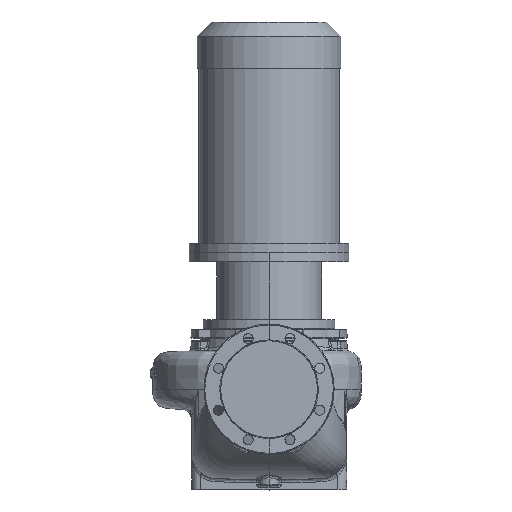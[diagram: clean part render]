
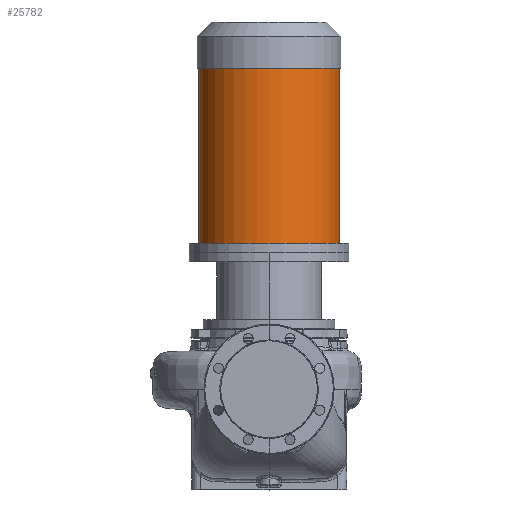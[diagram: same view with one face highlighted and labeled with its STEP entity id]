
A CAD part, top view. The second image highlights one B-rep face of the part: STEP entity #25782.
In plain terms, the highlighted cylindrical face has radius 154.5 mm (diameter 309 mm), a partial arc.
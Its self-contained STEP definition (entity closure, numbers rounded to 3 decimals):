
#1115 = EDGE_CURVE ( 'NONE', #68408, #66489, #30887, .T. ) ;
#2016 = CYLINDRICAL_SURFACE ( 'NONE', #28348, 154.5 ) ;
#3045 = CARTESIAN_POINT ( 'NONE',  ( 154.5, 299.8, 0. ) ) ;
#5681 = AXIS2_PLACEMENT_3D ( 'NONE', #25032, #57439, #12064 ) ;
#7532 = AXIS2_PLACEMENT_3D ( 'NONE', #39802, #64996, #27219 ) ;
#8286 = EDGE_CURVE ( 'NONE', #34252, #22077, #52697, .T. ) ;
#9692 = CARTESIAN_POINT ( 'NONE',  ( -154.5, 299.8, 0. ) ) ;
#12064 = DIRECTION ( 'NONE',  ( -1., 0., 0. ) ) ;
#12207 = LINE ( 'NONE', #9692, #82807 ) ;
#14001 = CARTESIAN_POINT ( 'NONE',  ( 0., 299.8, 0. ) ) ;
#20476 = DIRECTION ( 'NONE',  ( 0., -1., 0. ) ) ;
#20612 = ORIENTED_EDGE ( 'NONE', *, *, #1115, .T. ) ;
#21332 = EDGE_CURVE ( 'NONE', #68408, #34252, #78219, .T. ) ;
#22077 = VERTEX_POINT ( 'NONE', #51963 ) ;
#24074 = DIRECTION ( 'NONE',  ( 0., -1., 0. ) ) ;
#25032 = CARTESIAN_POINT ( 'NONE',  ( 0., 319.8, 0. ) ) ;
#25480 = ORIENTED_EDGE ( 'NONE', *, *, #8286, .F. ) ;
#25782 = ADVANCED_FACE ( 'NONE', ( #37280 ), #2016, .T. ) ;
#27219 = DIRECTION ( 'NONE',  ( -1., 0., 0. ) ) ;
#28348 = AXIS2_PLACEMENT_3D ( 'NONE', #14001, #20476, #78583 ) ;
#30887 = CIRCLE ( 'NONE', #7532, 154.5 ) ;
#34252 = VERTEX_POINT ( 'NONE', #80825 ) ;
#37280 = FACE_OUTER_BOUND ( 'NONE', #41258, .T. ) ;
#39802 = CARTESIAN_POINT ( 'NONE',  ( 0., 703.8, 0. ) ) ;
#41258 = EDGE_LOOP ( 'NONE', ( #69270, #20612, #54531, #25480 ) ) ;
#49478 = CARTESIAN_POINT ( 'NONE',  ( 154.5, 703.8, 0. ) ) ;
#51963 = CARTESIAN_POINT ( 'NONE',  ( -154.5, 319.8, 0. ) ) ;
#52697 = CIRCLE ( 'NONE', #5681, 154.5 ) ;
#53771 = EDGE_CURVE ( 'NONE', #66489, #22077, #12207, .T. ) ;
#54067 = CARTESIAN_POINT ( 'NONE',  ( -154.5, 703.8, 0. ) ) ;
#54531 = ORIENTED_EDGE ( 'NONE', *, *, #53771, .T. ) ;
#57439 = DIRECTION ( 'NONE',  ( 0., -1., 0. ) ) ;
#57971 = VECTOR ( 'NONE', #80293, 1000. ) ;
#64996 = DIRECTION ( 'NONE',  ( 0., -1., 0. ) ) ;
#66489 = VERTEX_POINT ( 'NONE', #54067 ) ;
#68408 = VERTEX_POINT ( 'NONE', #49478 ) ;
#69270 = ORIENTED_EDGE ( 'NONE', *, *, #21332, .F. ) ;
#78219 = LINE ( 'NONE', #3045, #57971 ) ;
#78583 = DIRECTION ( 'NONE',  ( -1., 0., 0. ) ) ;
#80293 = DIRECTION ( 'NONE',  ( 0., -1., 0. ) ) ;
#80825 = CARTESIAN_POINT ( 'NONE',  ( 154.5, 319.8, 0. ) ) ;
#82807 = VECTOR ( 'NONE', #24074, 1000. ) ;
